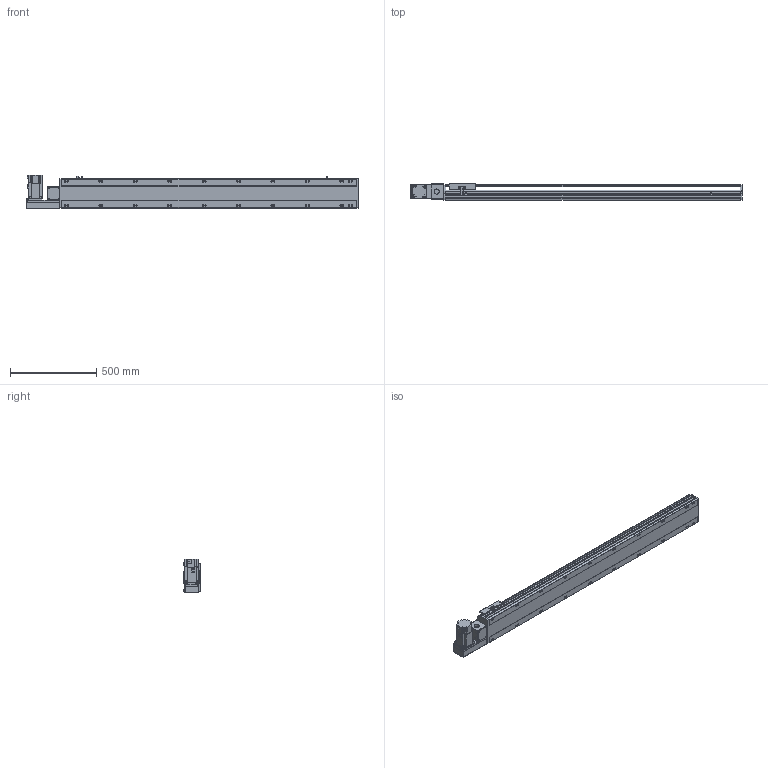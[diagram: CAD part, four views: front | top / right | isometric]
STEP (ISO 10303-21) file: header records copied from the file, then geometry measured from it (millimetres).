
FILE_DESCRIPTION( ( 'STEP AP214' ), '1' );
FILE_NAME( 'x:/temp/worker_3/temp/exporttempdir_5796_109_ax9Bd/format_0/PBS170-P40-S1450-L-T75-C1-N(0).stp', '2022-06-07T06:56:05', ( 'License CC BY-ND 4.0' ), ( 'CADENAS' ), ' ', 'PARTsolutions', ' ' );
FILE_SCHEMA( ( 'AUTOMOTIVE_DESIGN { 1 0 10303 214 1 1 1 1 }' ) );
Length unit declared in the file: millimetre
Products named in the file (7): PBS170-P40-S1450-L-T75-C1-N(0); _PBS170-S1450()_body; _PBS170T-L_motors; _T75-p1; _PBS170_sliser; _PBS170_plant; _PBS170_sensor
Assembly tree (8 placements, depth 2):
  PBS170-P40-S1450-L-T75-C1-N(0)
    _PBS170-S1450()_body
    _PBS170T-L_motors
    _T75-p1
    _PBS170_sliser
    _PBS170_plant
    _PBS170_sensor  x3
Bounding box: 1928 x 97 x 197.3 mm (x, y, z)
Volume: 14194067.4 mm3; surface area: 1828093.7 mm2
Topology: 8 solids, 8 shells, 1114 faces, 2955 edges, 1926 vertices
Faces by surface type: plane 699, cylinder 355, cone 50, sphere 8, torus 2
Full cylindrical faces by diameter (mm): 3.242 x4, 4 x2, 4.4 x4, 4.5 x6, 4.917 x4, 6 x9, 6.647 x28, 7 x2, 7.5 x4, 8 x8, 8.5 x20, 10 x4, 10.5 x20, 11 x2, 30 x2, 40 x1, 70 x1
Entity records: 41024 total; most frequent: CARTESIAN_POINT 6557, DIRECTION 5440, ORIENTED_EDGE 5148, EDGE_CURVE 2574, AXIS2_PLACEMENT_3D 1897, VERTEX_POINT 1778, LINE 1646, VECTOR 1646
